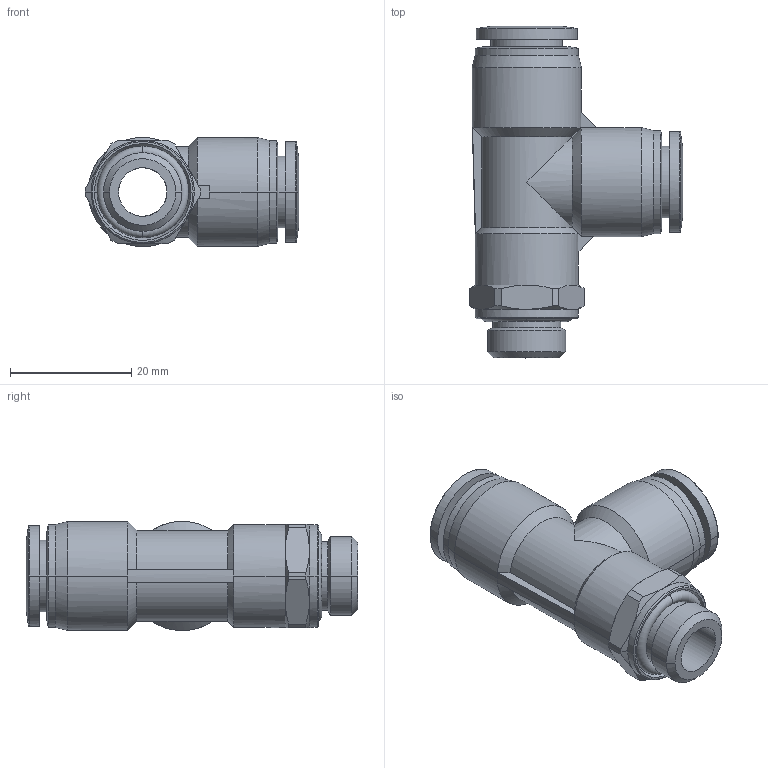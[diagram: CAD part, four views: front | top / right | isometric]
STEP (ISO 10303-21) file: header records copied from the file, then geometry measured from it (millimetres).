
FILE_DESCRIPTION (( 'STEP AP203' ), '1' );
FILE_NAME ('FLT10-02.STEP', '2020-05-12T14:18:00', ( '' ), ( '' ), 'SwSTEP 2.0', 'SolidWorks 2019', '' );
FILE_SCHEMA (( 'CONFIG_CONTROL_DESIGN' ));
Length unit declared in the file: millimetre
Products named in the file (1): FLT10-02
Bounding box: 35.25 x 54.75 x 17.98 mm (x, y, z)
Surface area: 7223 mm2 (no closed solid volume)
Topology: 0 solids, 4 shells, 125 faces, 310 edges, 195 vertices
Faces by surface type: cylinder 46, cone 40, plane 26, torus 8, bspline 5
Entity records: 6193 total; most frequent: CARTESIAN_POINT 3677, ORIENTED_EDGE 604, DIRECTION 317, EDGE_CURVE 310, B_SPLINE_CURVE_WITH_KNOTS 231, VERTEX_POINT 195, EDGE_LOOP 137, AXIS2_PLACEMENT_3D 129
